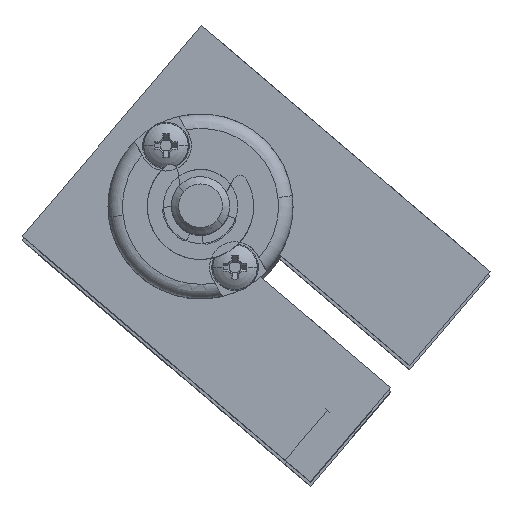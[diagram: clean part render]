
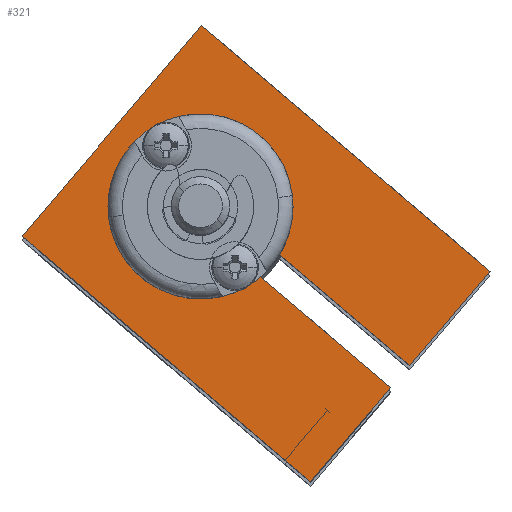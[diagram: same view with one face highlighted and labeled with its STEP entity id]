
A CAD part, top view. The second image highlights one B-rep face of the part: STEP entity #321.
In plain terms, the highlighted planar face has unit normal (0, 0, 1).
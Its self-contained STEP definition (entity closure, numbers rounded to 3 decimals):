
#321=ADVANCED_FACE('',(#951),#952,.F.);
#951=FACE_OUTER_BOUND('',#1775,.T.);
#952=PLANE('',#1776);
#1775=EDGE_LOOP('',(#4763,#4764,#4765,#4766,#4767,#4768,#4769,#4770,#4771,#4772));
#1776=AXIS2_PLACEMENT_3D('',#4773,#4774,#4775);
#4763=ORIENTED_EDGE('',*,*,#6706,.F.);
#4764=ORIENTED_EDGE('',*,*,#6702,.F.);
#4765=ORIENTED_EDGE('',*,*,#6725,.F.);
#4766=ORIENTED_EDGE('',*,*,#6722,.F.);
#4767=ORIENTED_EDGE('',*,*,#6718,.F.);
#4768=ORIENTED_EDGE('',*,*,#6738,.F.);
#4769=ORIENTED_EDGE('',*,*,#6022,.F.);
#4770=ORIENTED_EDGE('',*,*,#6739,.F.);
#4771=ORIENTED_EDGE('',*,*,#6715,.F.);
#4772=ORIENTED_EDGE('',*,*,#6712,.F.);
#4773=CARTESIAN_POINT('',(6.974,-2.81,-53.5));
#4774=DIRECTION('',(0.0,0.0,-1.0));
#4775=DIRECTION('',(0.0,-1.0,0.0));
#6022=EDGE_CURVE('',#7436,#7439,#7440,.T.);
#6702=EDGE_CURVE('',#8608,#8609,#8610,.T.);
#6706=EDGE_CURVE('',#8609,#8616,#8617,.T.);
#6712=EDGE_CURVE('',#8616,#8624,#8625,.T.);
#6715=EDGE_CURVE('',#8624,#8629,#8630,.T.);
#6718=EDGE_CURVE('',#8634,#8635,#8636,.T.);
#6722=EDGE_CURVE('',#8635,#8642,#8643,.T.);
#6725=EDGE_CURVE('',#8642,#8608,#8647,.T.);
#6738=EDGE_CURVE('',#7439,#8634,#8662,.T.);
#6739=EDGE_CURVE('',#8629,#7436,#8663,.T.);
#7436=VERTEX_POINT('',#9233);
#7439=VERTEX_POINT('',#9237);
#7440=CIRCLE('',#9238,6.35);
#8608=VERTEX_POINT('',#11231);
#8609=VERTEX_POINT('',#11232);
#8610=LINE('',#11233,#11234);
#8616=VERTEX_POINT('',#11243);
#8617=LINE('',#11244,#11245);
#8624=VERTEX_POINT('',#11256);
#8625=LINE('',#11257,#11258);
#8629=VERTEX_POINT('',#11264);
#8630=LINE('',#11265,#11266);
#8634=VERTEX_POINT('',#11272);
#8635=VERTEX_POINT('',#11273);
#8636=LINE('',#11274,#11275);
#8642=VERTEX_POINT('',#11284);
#8643=LINE('',#11285,#11286);
#8647=LINE('',#11292,#11293);
#8662=CIRCLE('',#11318,6.35);
#8663=CIRCLE('',#11319,6.35);
#9233=CARTESIAN_POINT('',(13.151,-4.283,-53.5));
#9237=CARTESIAN_POINT('',(0.797,-1.336,-53.5));
#9238=AXIS2_PLACEMENT_3D('',#12200,#12201,#12202);
#11231=CARTESIAN_POINT('',(-5.275,-4.86,-53.5));
#11232=CARTESIAN_POINT('',(7.039,9.61,-53.5));
#11233=CARTESIAN_POINT('',(-5.275,-4.86,-53.5));
#11234=VECTOR('',#13466,19.0);
#11243=CARTESIAN_POINT('',(26.839,-7.241,-53.5));
#11244=CARTESIAN_POINT('',(7.039,9.61,-53.5));
#11245=VECTOR('',#13470,26.0);
#11256=CARTESIAN_POINT('',(21.33,-13.714,-53.5));
#11257=CARTESIAN_POINT('',(26.839,-7.241,-53.5));
#11258=VECTOR('',#13478,8.5);
#11264=CARTESIAN_POINT('',(12.398,-6.112,-53.5));
#11265=CARTESIAN_POINT('',(21.33,-13.714,-53.5));
#11266=VECTOR('',#13481,11.729);
#11272=CARTESIAN_POINT('',(11.102,-7.635,-53.5));
#11273=CARTESIAN_POINT('',(20.034,-15.237,-53.5));
#11274=CARTESIAN_POINT('',(11.102,-7.635,-53.5));
#11275=VECTOR('',#13484,11.729);
#11284=CARTESIAN_POINT('',(14.525,-21.71,-53.5));
#11285=CARTESIAN_POINT('',(20.034,-15.237,-53.5));
#11286=VECTOR('',#13488,8.5);
#11292=CARTESIAN_POINT('',(14.525,-21.71,-53.5));
#11293=VECTOR('',#13491,26.0);
#11318=AXIS2_PLACEMENT_3D('',#13508,#13509,#13510);
#11319=AXIS2_PLACEMENT_3D('',#13511,#13512,#13513);
#12200=CARTESIAN_POINT('',(6.974,-2.81,-53.5));
#12201=DIRECTION('',(0.,0.,1.0));
#12202=DIRECTION('',(0.973,-0.232,0.));
#13466=DIRECTION('',(0.648,0.762,0.));
#13470=DIRECTION('',(0.762,-0.648,0.));
#13478=DIRECTION('',(-0.648,-0.762,0.0));
#13481=DIRECTION('',(-0.762,0.648,0.0));
#13484=DIRECTION('',(0.762,-0.648,0.0));
#13488=DIRECTION('',(-0.648,-0.762,0.0));
#13491=DIRECTION('',(-0.762,0.648,0.));
#13508=CARTESIAN_POINT('',(6.974,-2.81,-53.5));
#13509=DIRECTION('',(0.,0.,1.0));
#13510=DIRECTION('',(0.973,-0.232,0.));
#13511=CARTESIAN_POINT('',(6.974,-2.81,-53.5));
#13512=DIRECTION('',(0.,0.,1.0));
#13513=DIRECTION('',(0.973,-0.232,0.));
